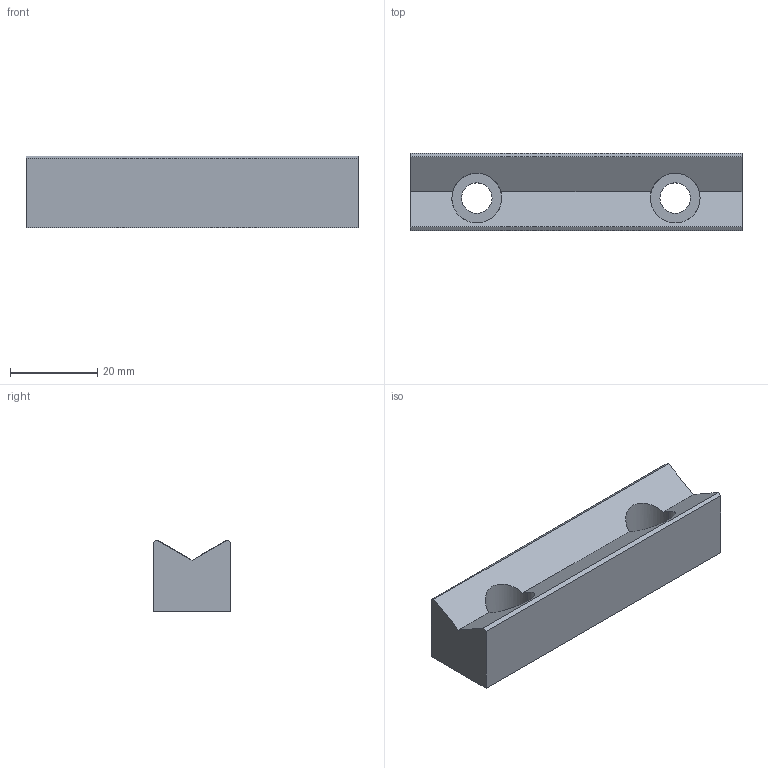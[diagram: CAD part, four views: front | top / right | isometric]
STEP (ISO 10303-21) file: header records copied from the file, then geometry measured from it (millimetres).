
FILE_DESCRIPTION((''),'2;1');
FILE_NAME('QK2','2023-11-27T14:11:17',('95204'),(''),'CREO PARAMETRIC BY PTC INC, 2021023','CREO PARAMETRIC BY PTC INC, 2021023','');
FILE_SCHEMA(('CONFIG_CONTROL_DESIGN'));
Length unit declared in the file: millimetre
Products named in the file (1): QK2
Bounding box: 76.1 x 17.8 x 16.5 mm (x, y, z)
Volume: 17232.8 mm3; surface area: 6579.6 mm2
Topology: 1 solids, 1 shells, 19 faces, 51 edges, 34 vertices
Faces by surface type: plane 11, cylinder 8
Entity records: 699 total; most frequent: CARTESIAN_POINT 176, ORIENTED_EDGE 102, DIRECTION 93, EDGE_CURVE 51, VERTEX_POINT 34, AXIS2_PLACEMENT_3D 31, VECTOR 31, LINE 31
